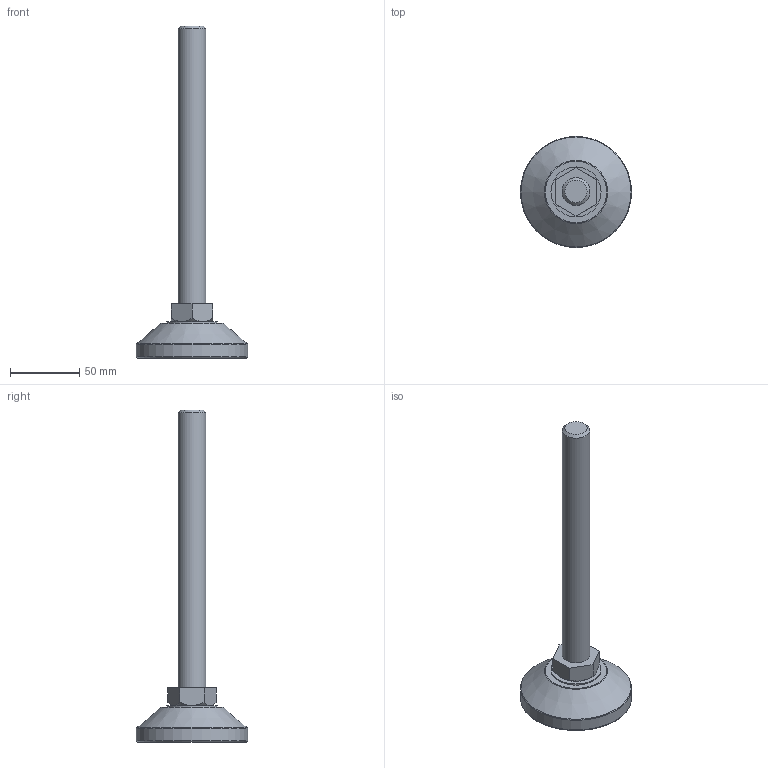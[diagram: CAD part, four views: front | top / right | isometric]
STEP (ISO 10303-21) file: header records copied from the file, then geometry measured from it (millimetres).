
FILE_DESCRIPTION(/* description */ (''),/* implementation_level */ '2;1');
FILE_NAME(/* name */ 'D:\조절자\F\F-M20-200L.stp',/* time_stamp */ '2016-03-14T14:31:33+09:00',/* author */ ('GS-DT-1-001'),/* organization */ (''),/* preprocessor_version */ 'ST-DEVELOPER v15.6',/* originating_system */ 'Autodesk Inventor LT ',/* authorisation */ '');
FILE_SCHEMA (('AUTOMOTIVE_DESIGN { 1 0 10303 214 3 1 1 }'));
Length unit declared in the file: millimetre
Products named in the file (1): F-M20-200L
Bounding box: 80 x 80 x 239 mm (x, y, z)
Volume: 140737.8 mm3; surface area: 35108.3 mm2
Topology: 4 solids, 4 shells, 46 faces, 82 edges, 51 vertices
Faces by surface type: plane 21, cylinder 13, cone 8, torus 4
Full cylindrical faces by diameter (mm): 6.912 x1, 8 x1, 8.2 x1, 8.3 x1, 16 x1, 20 x1, 36 x1, 50 x1, 57 x1, 61 x1, 71 x1, 75 x1, 80 x1
Entity records: 995 total; most frequent: DIRECTION 180, CARTESIAN_POINT 163, ORIENTED_EDGE 110, AXIS2_PLACEMENT_3D 84, EDGE_LOOP 82, EDGE_CURVE 55, VERTEX_POINT 49, FACE_OUTER_BOUND 46
